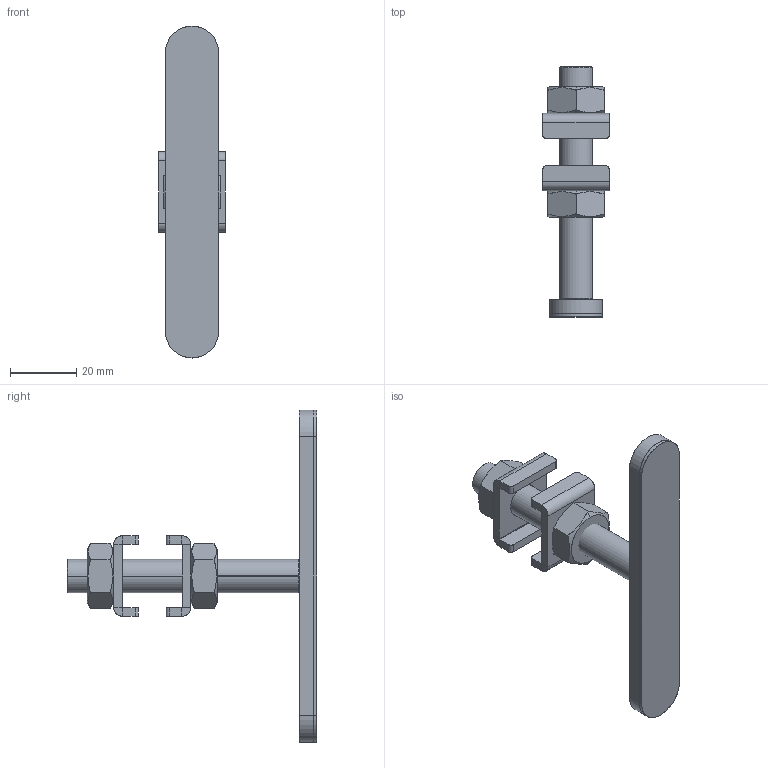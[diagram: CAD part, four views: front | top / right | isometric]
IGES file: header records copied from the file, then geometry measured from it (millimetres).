
Start section: SolidWorks IGES file using analytic representation for surfaces
Global section: file name: C:\Projetos\Ponteiras\PFA\PFA-M10.IGS; native system: SolidWorks 2011; preprocessor: SolidWorks 2011; author: Usuario; date: 110524.103747; units: millimetre
Bounding box: 20 x 75.25 x 100 mm (x, y, z)
Surface area: 14694.1 mm2 (no closed solid volume)
Topology: 0 solids, 0 shells, 112 faces, 1528 edges, 1528 vertices
Faces by surface type: bspline 62, revolution 50
